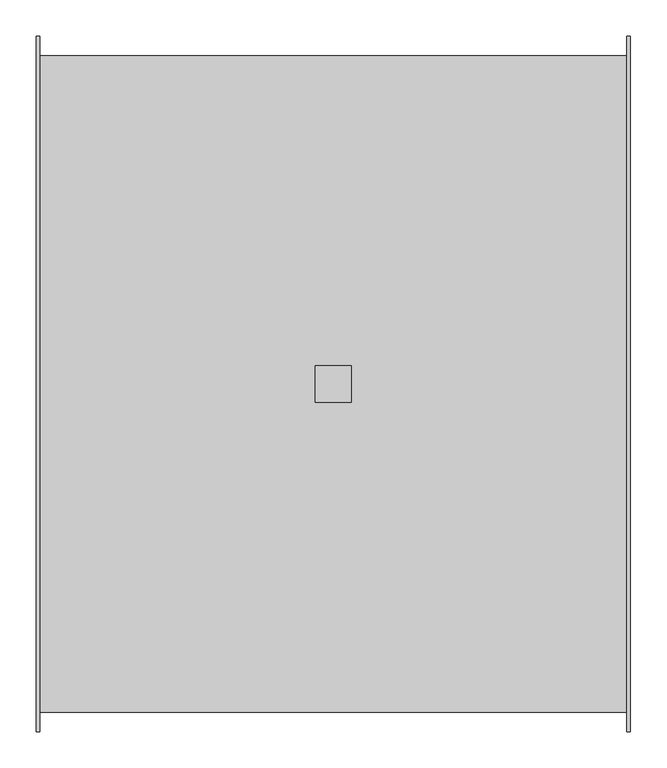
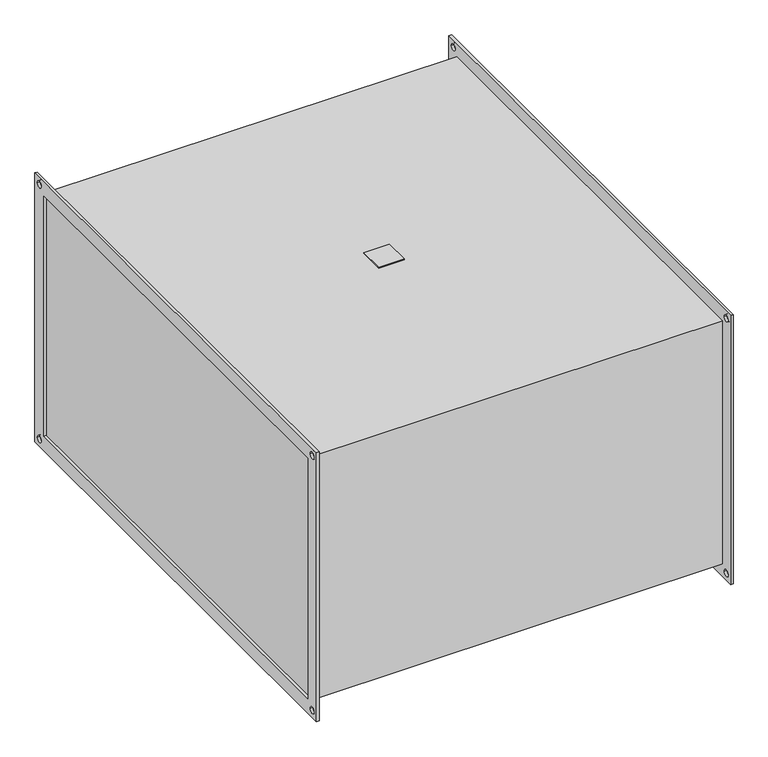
"""IFC4 building model written with IfcOpenShell, lengths in millimetres: damper geometry, KORF_Фильтр_Карманный_FKR : FKR 90-50  EU5."""

from ifc_helpers import new_model, si_unit, point, frame, frame_2d, origin, place, context, project, spatial, polyline, circle_curve, trimmed, segment, composite_curve, outline, extrude, source, transform, mapped, element, save


def damper_4f7fa12c(model_context):
    return source(origin(), model_context, "Body", "SweptSolid", [
        extrude(outline(polyline([(435.0, 25.0), (435.0, -25.0), (385.0, -25.0), (385.0, 25.0), (435.0, 25.0)])), frame((0.0, 0.0, 253.0), z_axis=(0.0, 0.0, 1.0), x_axis=(1.0, 0.0, 0.0)), (0.0, 0.0, 1.0), 2.0),
        extrude(outline(polyline([(-480.0, 280.0), (480.0, 280.0), (480.0, -280.0), (-480.0, -280.0), (-480.0, 280.0)]), holes=[polyline([(-450.0, 250.0), (-450.0, -250.0), (450.0, -250.0), (450.0, 250.0), (-450.0, 250.0)]), composite_curve([segment(trimmed(circle_curve(frame_2d((465.0, 265.0)), 6.5), [point((458.5, 265.0))], [point((471.5, 265.0))], True, "CARTESIAN"), True, "CONTINUOUS"), segment(trimmed(circle_curve(frame_2d((465.0, 265.0)), 6.5), [point((471.5, 265.0))], [point((458.5, 265.0))], True, "CARTESIAN"), True, "CONTINUOUS")], self_intersect=False), composite_curve([segment(trimmed(circle_curve(frame_2d((-465.0, 265.0)), 6.5), [point((-471.5, 265.0))], [point((-458.5, 265.0))], True, "CARTESIAN"), True, "CONTINUOUS"), segment(trimmed(circle_curve(frame_2d((-465.0, 265.0)), 6.5), [point((-458.5, 265.0))], [point((-471.5, 265.0))], True, "CARTESIAN"), True, "CONTINUOUS")], self_intersect=False), composite_curve([segment(trimmed(circle_curve(frame_2d((-465.0, -265.0)), 6.5), [point((-471.5, -265.0))], [point((-458.5, -265.0))], True, "CARTESIAN"), True, "CONTINUOUS"), segment(trimmed(circle_curve(frame_2d((-465.0, -265.0)), 6.5), [point((-458.5, -265.0))], [point((-471.5, -265.0))], True, "CARTESIAN"), True, "CONTINUOUS")], self_intersect=False), composite_curve([segment(trimmed(circle_curve(frame_2d((465.0, -265.0)), 6.5), [point((458.5, -265.0))], [point((471.5, -265.0))], True, "CARTESIAN"), True, "CONTINUOUS"), segment(trimmed(circle_curve(frame_2d((465.0, -265.0)), 6.5), [point((471.5, -265.0))], [point((458.5, -265.0))], True, "CARTESIAN"), True, "CONTINUOUS")], self_intersect=False)]), frame((815.0, 0.0, 0.0), z_axis=(1.0, 0.0, 0.0), x_axis=(0.0, 1.0, 0.0)), (0.0, 0.0, 1.0), 5.0),
        extrude(outline(polyline([(-480.0, 280.0), (480.0, 280.0), (480.0, -280.0), (-480.0, -280.0), (-480.0, 280.0)]), holes=[polyline([(-450.0, 250.0), (-450.0, -250.0), (450.0, -250.0), (450.0, 250.0), (-450.0, 250.0)]), composite_curve([segment(trimmed(circle_curve(frame_2d((465.0, 265.0)), 6.5), [point((458.5, 265.0))], [point((471.5, 265.0))], True, "CARTESIAN"), True, "CONTINUOUS"), segment(trimmed(circle_curve(frame_2d((465.0, 265.0)), 6.5), [point((471.5, 265.0))], [point((458.5, 265.0))], True, "CARTESIAN"), True, "CONTINUOUS")], self_intersect=False), composite_curve([segment(trimmed(circle_curve(frame_2d((-465.0, 265.0)), 6.5), [point((-471.5, 265.0))], [point((-458.5, 265.0))], True, "CARTESIAN"), True, "CONTINUOUS"), segment(trimmed(circle_curve(frame_2d((-465.0, 265.0)), 6.5), [point((-458.5, 265.0))], [point((-471.5, 265.0))], True, "CARTESIAN"), True, "CONTINUOUS")], self_intersect=False), composite_curve([segment(trimmed(circle_curve(frame_2d((-465.0, -265.0)), 6.5), [point((-471.5, -265.0))], [point((-458.5, -265.0))], True, "CARTESIAN"), True, "CONTINUOUS"), segment(trimmed(circle_curve(frame_2d((-465.0, -265.0)), 6.5), [point((-458.5, -265.0))], [point((-471.5, -265.0))], True, "CARTESIAN"), True, "CONTINUOUS")], self_intersect=False), composite_curve([segment(trimmed(circle_curve(frame_2d((465.0, -265.0)), 6.5), [point((458.5, -265.0))], [point((471.5, -265.0))], True, "CARTESIAN"), True, "CONTINUOUS"), segment(trimmed(circle_curve(frame_2d((465.0, -265.0)), 6.5), [point((471.5, -265.0))], [point((458.5, -265.0))], True, "CARTESIAN"), True, "CONTINUOUS")], self_intersect=False)]), frame((0.0, 0.0, 0.0), z_axis=(1.0, 0.0, 0.0), x_axis=(0.0, 1.0, 0.0)), (0.0, 0.0, 1.0), 5.0),
        extrude(outline(polyline([(815.0, 453.0), (815.0, -453.0), (5.0, -453.0), (5.0, 453.0), (815.0, 453.0)])), frame((0.0, 0.0, -253.0), z_axis=(0.0, 0.0, 1.0), x_axis=(1.0, 0.0, 0.0)), (0.0, 0.0, 1.0), 506.0),
    ])


if __name__ == "__main__":
    model = new_model("IFC4")
    model_context = context("Model", 3, world=origin())
    ifc_project = project(units=[si_unit("LENGTHUNIT", "METRE", prefix="MILLI")], contexts=[model_context])
    site = spatial("IfcSite", under=ifc_project)
    building = spatial("IfcBuilding", under=site)
    placement = place(None, origin())
    damper_shape = damper_4f7fa12c(model_context)
    element("IfcDamper", 1, ObjectType="KORF_Фильтр_Карманный_FKR : FKR 90-50  EU5", at=placement, inside=building, context=model_context, shape_type="MappedRepresentation", body=[
        mapped(damper_shape, transform((0.0, 0.0, 0.0), x_axis=(1.0, 0.0, 0.0), y_axis=(0.0, 1.0, 0.0), z_axis=(0.0, 0.0, 1.0))),
    ])
    save(model, "model.ifc")
